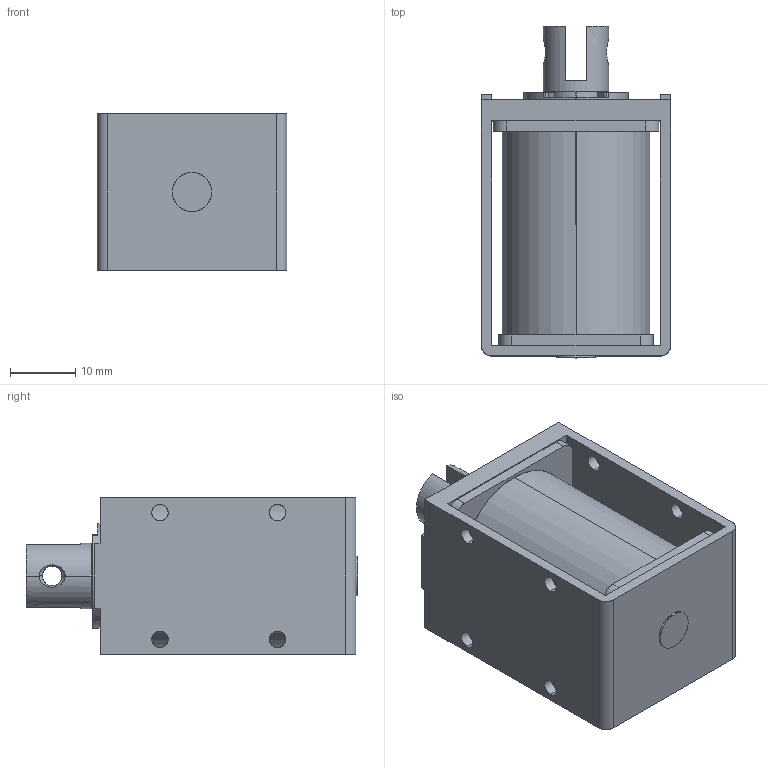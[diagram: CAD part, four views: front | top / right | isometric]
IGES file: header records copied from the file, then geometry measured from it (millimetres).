
Start section: SolidWorks IGES file using analytic representation for surfaces
Global section: file name: L:\カタログ\web用3Dデータ\CA1040\3D_CA1040\w_ca1040.IGS; native system: SolidWorks 2014; preprocessor: SolidWorks 2014; author: jiba; date: 140714.110635; units: millimetre
Bounding box: 29 x 50.8 x 24 mm (x, y, z)
Surface area: 10921 mm2 (no closed solid volume)
Topology: 0 solids, 0 shells, 127 faces, 2188 edges, 2188 vertices
Faces by surface type: revolution 72, bspline 55
